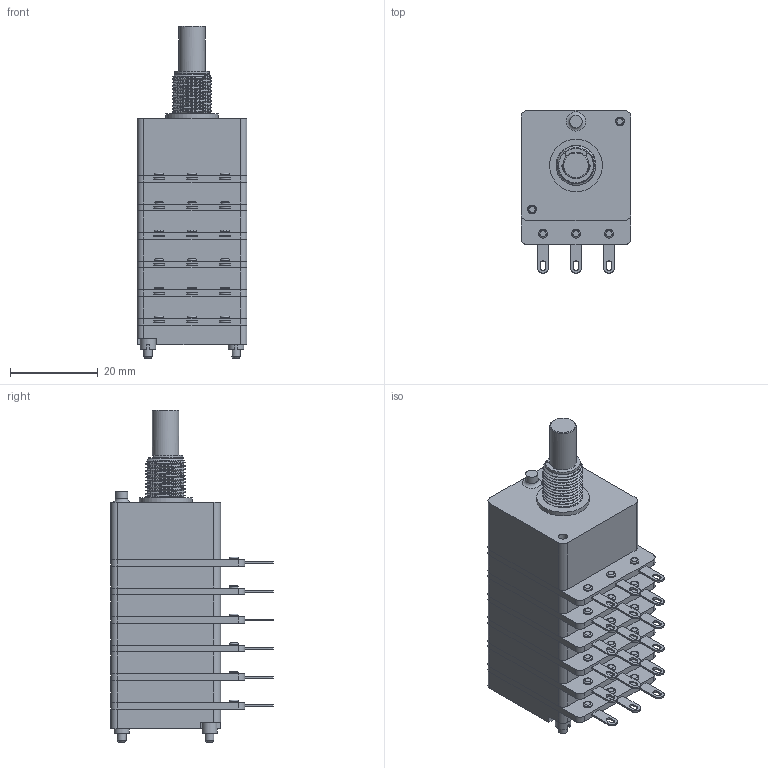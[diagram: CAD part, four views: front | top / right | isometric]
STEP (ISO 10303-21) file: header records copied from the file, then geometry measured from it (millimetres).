
FILE_DESCRIPTION(('FreeCAD Model'),'2;1');
FILE_NAME('Open CASCADE Shape Model','2024-02-27T11:19:44',(''),(''), 'Open CASCADE STEP processor 7.6','FreeCAD','Unknown');
FILE_SCHEMA(('AUTOMOTIVE_DESIGN { 1 0 10303 214 1 1 1 1 }'));
Length unit declared in the file: millimetre
Products named in the file (1): 6cp25xx-r20
Bounding box: 25 x 37 x 75.5 mm (x, y, z)
Volume: 34040.3 mm3; surface area: 11038.8 mm2
Topology: 1 solids, 31 shells, 607 faces, 1322 edges, 829 vertices
Faces by surface type: plane 312, cylinder 231, bspline 38, torus 20, cone 6
Full cylindrical faces by diameter (mm): 1.9 x2, 2 x46, 2.2 x22, 2.8 x1, 3.5 x2, 4.5 x6, 5.4 x1, 6 x1, 6.05 x1, 8 x1, 9.09 x11, 12 x1
Entity records: 44079 total; most frequent: CARTESIAN_POINT 16055, DIRECTION 4734, ORIENTED_EDGE 2642, PCURVE 2642, DEFINITIONAL_REPRESENTATION 2642, LINE 2372, VECTOR 2372, EDGE_CURVE 1321
